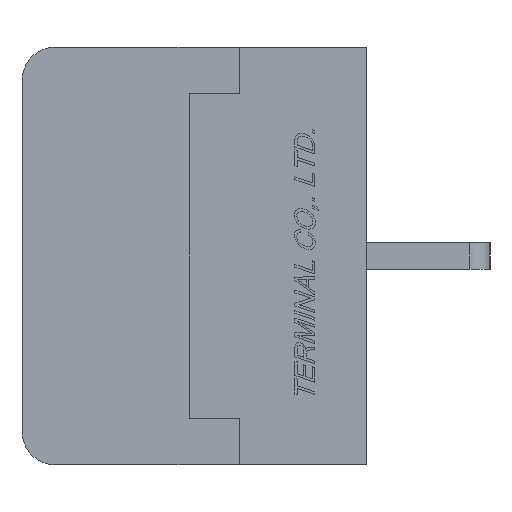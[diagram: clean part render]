
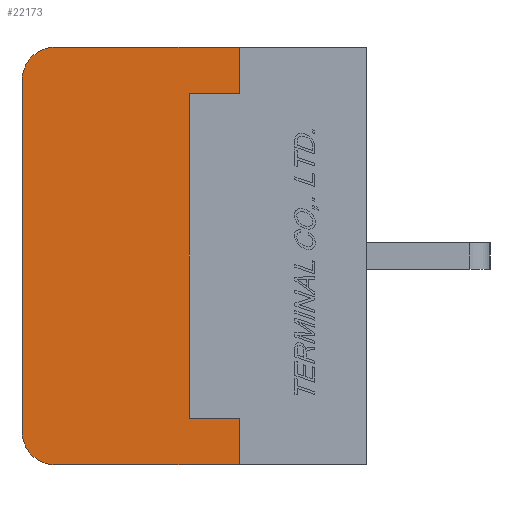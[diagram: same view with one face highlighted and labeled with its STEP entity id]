
A CAD part, left-side view. The second image highlights one B-rep face of the part: STEP entity #22173.
In plain terms, the highlighted planar face has unit normal (-1, 0, 0).
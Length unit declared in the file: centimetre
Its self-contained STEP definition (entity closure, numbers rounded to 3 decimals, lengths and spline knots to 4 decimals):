
#1193=CIRCLE('',#37448,0.1);
#1195=CIRCLE('',#37451,0.1);
#3086=VERTEX_POINT('',#34505);
#3087=VERTEX_POINT('',#34507);
#3089=VERTEX_POINT('',#34513);
#3091=VERTEX_POINT('',#34519);
#3092=VERTEX_POINT('',#34526);
#3093=VERTEX_POINT('',#34527);
#3094=VERTEX_POINT('',#34530);
#3095=VERTEX_POINT('',#34532);
#3096=VERTEX_POINT('',#34534);
#3097=VERTEX_POINT('',#34536);
#5440=VECTOR('',#27322,1.);
#5446=VECTOR('',#27342,1.);
#5447=VECTOR('',#27343,1.);
#5448=VECTOR('',#27344,1.);
#5449=VECTOR('',#27345,1.);
#5450=VECTOR('',#27346,1.);
#5451=VECTOR('',#27347,1.);
#5452=VECTOR('',#27348,1.);
#7862=LINE('',#34506,#5440);
#7868=LINE('',#34525,#5446);
#7869=LINE('',#34528,#5447);
#7870=LINE('',#34529,#5448);
#7871=LINE('',#34531,#5449);
#7872=LINE('',#34533,#5450);
#7873=LINE('',#34535,#5451);
#7874=LINE('',#34537,#5452);
#11126=EDGE_CURVE('',#3086,#3087,#7862,.T.);
#11130=EDGE_CURVE('',#3089,#3086,#1193,.T.);
#11132=EDGE_CURVE('',#3087,#3091,#1195,.T.);
#11136=EDGE_CURVE('',#3092,#3093,#7868,.T.);
#11137=EDGE_CURVE('',#3091,#3092,#7869,.T.);
#11138=EDGE_CURVE('',#3094,#3089,#7870,.T.);
#11139=EDGE_CURVE('',#3095,#3094,#7871,.T.);
#11140=EDGE_CURVE('',#3096,#3095,#7872,.T.);
#11141=EDGE_CURVE('',#3097,#3096,#7873,.T.);
#11142=EDGE_CURVE('',#3093,#3097,#7874,.T.);
#17248=ORIENTED_EDGE('',*,*,#11136,.F.);
#17249=ORIENTED_EDGE('',*,*,#11137,.F.);
#17250=ORIENTED_EDGE('',*,*,#11132,.F.);
#17251=ORIENTED_EDGE('',*,*,#11126,.F.);
#17252=ORIENTED_EDGE('',*,*,#11130,.F.);
#17253=ORIENTED_EDGE('',*,*,#11138,.F.);
#17254=ORIENTED_EDGE('',*,*,#11139,.F.);
#17255=ORIENTED_EDGE('',*,*,#11140,.F.);
#17256=ORIENTED_EDGE('',*,*,#11141,.F.);
#17257=ORIENTED_EDGE('',*,*,#11142,.F.);
#19532=EDGE_LOOP('',(#17248,#17249,#17250,#17251,#17252,#17253,#17254,#17255,
#17256,#17257));
#20894=FACE_BOUND('',#19532,.T.);
#22173=ADVANCED_FACE('',(#20894),#23113,.F.);
#23113=PLANE('',#37453);
#27322=DIRECTION('',(0.,0.,1.));
#27329=DIRECTION('',(1.,0.,0.));
#27330=DIRECTION('',(0.,0.,-0.1));
#27335=DIRECTION('',(1.,0.,0.));
#27336=DIRECTION('',(0.,0.,-0.1));
#27341=DIRECTION('',(1.,0.,0.));
#27342=DIRECTION('',(0.,0.,-1.));
#27343=DIRECTION('',(0.,-1.,0.));
#27344=DIRECTION('',(0.,1.,0.));
#27345=DIRECTION('',(0.,0.,-1.));
#27346=DIRECTION('',(0.,-1.,0.));
#27347=DIRECTION('',(0.,0.,-1.));
#27348=DIRECTION('',(0.,1.,0.));
#34505=CARTESIAN_POINT('',(-0.762,1.03,-0.525));
#34506=CARTESIAN_POINT('',(-0.762,1.03,-0.525));
#34507=CARTESIAN_POINT('',(-0.762,1.03,0.525));
#34513=CARTESIAN_POINT('',(-0.762,0.93,-0.625));
#34514=CARTESIAN_POINT('',(-0.762,0.93,-0.525));
#34518=CARTESIAN_POINT('',(-0.762,0.93,0.525));
#34519=CARTESIAN_POINT('',(-0.762,0.93,0.625));
#34524=CARTESIAN_POINT('',(-0.762,0.5047,0.));
#34525=CARTESIAN_POINT('',(-0.762,0.38,0.625));
#34526=CARTESIAN_POINT('',(-0.762,0.38,0.625));
#34527=CARTESIAN_POINT('',(-0.762,0.38,0.485));
#34528=CARTESIAN_POINT('',(-0.762,0.93,0.625));
#34529=CARTESIAN_POINT('',(-0.762,0.,-0.625));
#34530=CARTESIAN_POINT('',(-0.762,0.38,-0.625));
#34531=CARTESIAN_POINT('',(-0.762,0.38,-0.485));
#34532=CARTESIAN_POINT('',(-0.762,0.38,-0.485));
#34533=CARTESIAN_POINT('',(-0.762,0.53,-0.485));
#34534=CARTESIAN_POINT('',(-0.762,0.53,-0.485));
#34535=CARTESIAN_POINT('',(-0.762,0.53,0.485));
#34536=CARTESIAN_POINT('',(-0.762,0.53,0.485));
#34537=CARTESIAN_POINT('',(-0.762,0.38,0.485));
#37448=AXIS2_PLACEMENT_3D('',#34514,#27329,#27330);
#37451=AXIS2_PLACEMENT_3D('',#34518,#27335,#27336);
#37453=AXIS2_PLACEMENT_3D('',#34524,#27341,$);
